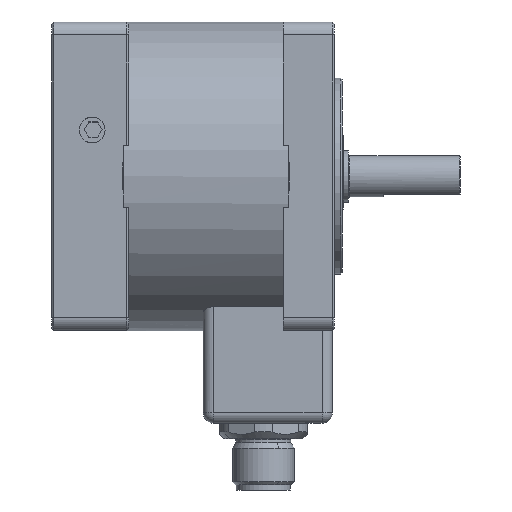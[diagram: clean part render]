
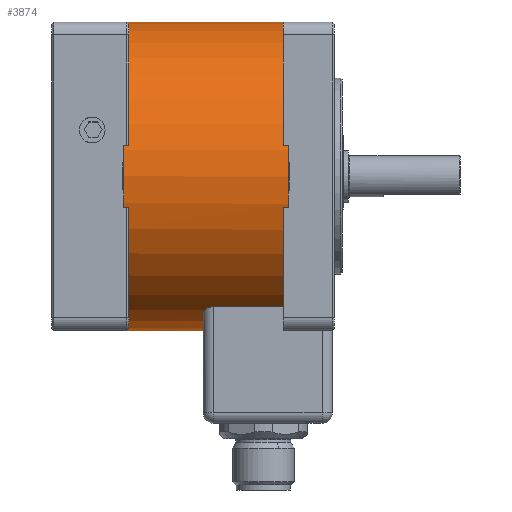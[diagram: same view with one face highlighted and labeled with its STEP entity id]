
A CAD part, left-side view. The second image highlights one B-rep face of the part: STEP entity #3874.
In plain terms, the highlighted cylindrical face has radius 30 mm (diameter 60 mm), a partial arc.
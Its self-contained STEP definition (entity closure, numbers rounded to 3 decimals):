
#312 = DIRECTION ( 'NONE',  ( 0., -1., 0. ) ) ;
#751 = CARTESIAN_POINT ( 'NONE',  ( -206.146, -66.681, 182.901 ) ) ;
#1085 = CARTESIAN_POINT ( 'NONE',  ( -206.146, -49.181, 182.901 ) ) ;
#1469 = CARTESIAN_POINT ( 'NONE',  ( -211.146, -71.35, 183.32 ) ) ;
#3874 = ADVANCED_FACE ( 'NONE', ( #45608 ), #13426, .T. ) ;
#4898 = VERTEX_POINT ( 'NONE', #66975 ) ;
#6002 = CARTESIAN_POINT ( 'NONE',  ( -208.79, -67.434, 183.017 ) ) ;
#6353 = CARTESIAN_POINT ( 'NONE',  ( -210.482, -69.17, 183.215 ) ) ;
#6436 = CARTESIAN_POINT ( 'NONE',  ( -206.146, -66.681, 182.901 ) ) ;
#6842 = EDGE_CURVE ( 'NONE', #34109, #28920, #25215, .T. ) ;
#9802 = EDGE_CURVE ( 'NONE', #4898, #45008, #42940, .T. ) ;
#9848 = VECTOR ( 'NONE', #312, 1000. ) ;
#10741 = VECTOR ( 'NONE', #46266, 1000. ) ;
#11265 = CARTESIAN_POINT ( 'NONE',  ( -207.757, -66.936, 182.942 ) ) ;
#11408 = CARTESIAN_POINT ( 'NONE',  ( -206.146, -49.181, 242.901 ) ) ;
#11509 = ORIENTED_EDGE ( 'NONE', *, *, #39356, .F. ) ;
#11608 = CARTESIAN_POINT ( 'NONE',  ( -208.65, -67.35, 183.005 ) ) ;
#12637 = ORIENTED_EDGE ( 'NONE', *, *, #43032, .T. ) ;
#13426 = CYLINDRICAL_SURFACE ( 'NONE', #16493, 30. ) ;
#16493 = AXIS2_PLACEMENT_3D ( 'NONE', #56437, #61015, #18991 ) ;
#17193 = CARTESIAN_POINT ( 'NONE',  ( -206.146, -81.681, 242.901 ) ) ;
#17504 = CARTESIAN_POINT ( 'NONE',  ( -209.195, -67.705, 183.055 ) ) ;
#18991 = DIRECTION ( 'NONE',  ( 0., 0., -1. ) ) ;
#19001 = CARTESIAN_POINT ( 'NONE',  ( -206.146, -81.681, 212.901 ) ) ;
#21961 = DIRECTION ( 'NONE',  ( 0., 1., 0. ) ) ;
#22053 = CARTESIAN_POINT ( 'NONE',  ( -209.448, -67.912, 183.082 ) ) ;
#22315 = CARTESIAN_POINT ( 'NONE',  ( -211.146, -49.181, 183.32 ) ) ;
#22754 = CARTESIAN_POINT ( 'NONE',  ( -211.146, -71.681, 183.32 ) ) ;
#25215 = LINE ( 'NONE', #35744, #10741 ) ;
#27110 = VECTOR ( 'NONE', #38322, 1000. ) ;
#27291 = CARTESIAN_POINT ( 'NONE',  ( -209.913, -68.377, 183.137 ) ) ;
#27426 = LINE ( 'NONE', #11408, #27110 ) ;
#27642 = CARTESIAN_POINT ( 'NONE',  ( -206.804, -66.714, 182.906 ) ) ;
#28228 = ORIENTED_EDGE ( 'NONE', *, *, #35738, .F. ) ;
#28920 = VERTEX_POINT ( 'NONE', #6436 ) ;
#32573 = CARTESIAN_POINT ( 'NONE',  ( -208.211, -67.125, 182.971 ) ) ;
#33145 = B_SPLINE_CURVE_WITH_KNOTS ( 'NONE', 3,
 ( #751, #59159, #27642, #38538, #11265, #32573, #53929, #11608, #6002, #17504, #22053, #27291, #54983, #6353, #59865, #49373, #33278, #54636, #1469, #22754 ),
 .UNSPECIFIED., .F., .F.,
 ( 4, 2, 2, 2, 2, 2, 2, 2, 2, 4 ),
 ( 0.008, 0.009, 0.01, 0.01, 0.011, 0.012, 0.013, 0.014, 0.015, 0.016 ),
 .UNSPECIFIED. ) ;
#33278 = CARTESIAN_POINT ( 'NONE',  ( -210.984, -70.378, 183.293 ) ) ;
#34109 = VERTEX_POINT ( 'NONE', #1085 ) ;
#35115 = CARTESIAN_POINT ( 'NONE',  ( -211.146, -81.681, 183.32 ) ) ;
#35364 = CIRCLE ( 'NONE', #67807, 30. ) ;
#35609 = ORIENTED_EDGE ( 'NONE', *, *, #44367, .T. ) ;
#35738 = EDGE_CURVE ( 'NONE', #42847, #48821, #27426, .T. ) ;
#35744 = CARTESIAN_POINT ( 'NONE',  ( -206.146, -49.181, 182.901 ) ) ;
#38098 = DIRECTION ( 'NONE',  ( 0., 0., 1. ) ) ;
#38322 = DIRECTION ( 'NONE',  ( 0., -1., 0. ) ) ;
#38538 = CARTESIAN_POINT ( 'NONE',  ( -207.445, -66.842, 182.927 ) ) ;
#39356 = EDGE_CURVE ( 'NONE', #34109, #42847, #35364, .T. ) ;
#42847 = VERTEX_POINT ( 'NONE', #56750 ) ;
#42940 = LINE ( 'NONE', #22315, #9848 ) ;
#43032 = EDGE_CURVE ( 'NONE', #28920, #4898, #33145, .T. ) ;
#44367 = EDGE_CURVE ( 'NONE', #45008, #48821, #50398, .T. ) ;
#45008 = VERTEX_POINT ( 'NONE', #35115 ) ;
#45608 = FACE_OUTER_BOUND ( 'NONE', #46620, .T. ) ;
#45615 = DIRECTION ( 'NONE',  ( 0., 0., 1. ) ) ;
#45889 = AXIS2_PLACEMENT_3D ( 'NONE', #19001, #62044, #45615 ) ;
#46266 = DIRECTION ( 'NONE',  ( 0., -1., 0. ) ) ;
#46620 = EDGE_LOOP ( 'NONE', ( #28228, #11509, #58823, #12637, #56370, #35609 ) ) ;
#48821 = VERTEX_POINT ( 'NONE', #17193 ) ;
#49373 = CARTESIAN_POINT ( 'NONE',  ( -210.889, -70.066, 183.278 ) ) ;
#50398 = CIRCLE ( 'NONE', #45889, 30. ) ;
#53929 = CARTESIAN_POINT ( 'NONE',  ( -208.361, -67.196, 182.982 ) ) ;
#54538 = CARTESIAN_POINT ( 'NONE',  ( -206.146, -49.181, 212.901 ) ) ;
#54636 = CARTESIAN_POINT ( 'NONE',  ( -211.113, -71.019, 183.315 ) ) ;
#54983 = CARTESIAN_POINT ( 'NONE',  ( -210.12, -68.629, 183.164 ) ) ;
#56370 = ORIENTED_EDGE ( 'NONE', *, *, #9802, .T. ) ;
#56437 = CARTESIAN_POINT ( 'NONE',  ( -206.146, -49.181, 212.901 ) ) ;
#56750 = CARTESIAN_POINT ( 'NONE',  ( -206.146, -49.181, 242.901 ) ) ;
#58823 = ORIENTED_EDGE ( 'NONE', *, *, #6842, .T. ) ;
#59159 = CARTESIAN_POINT ( 'NONE',  ( -206.472, -66.681, 182.901 ) ) ;
#59865 = CARTESIAN_POINT ( 'NONE',  ( -210.638, -69.462, 183.239 ) ) ;
#61015 = DIRECTION ( 'NONE',  ( 0., -1., 0. ) ) ;
#62044 = DIRECTION ( 'NONE',  ( 0., 1., 0. ) ) ;
#66975 = CARTESIAN_POINT ( 'NONE',  ( -211.146, -71.681, 183.32 ) ) ;
#67807 = AXIS2_PLACEMENT_3D ( 'NONE', #54538, #21961, #38098 ) ;
